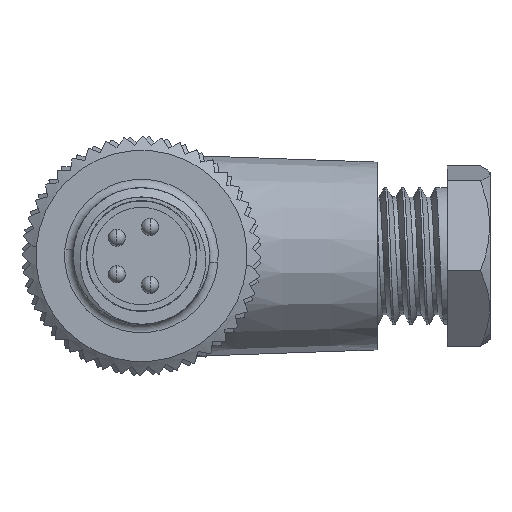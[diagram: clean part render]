
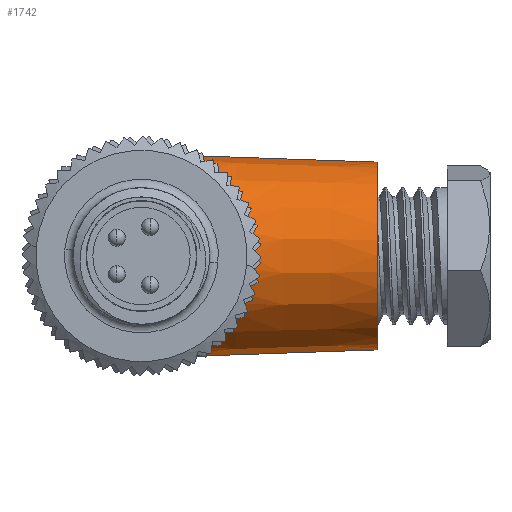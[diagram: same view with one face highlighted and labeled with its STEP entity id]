
A CAD part, front view. The second image highlights one B-rep face of the part: STEP entity #1742.
In plain terms, the highlighted conical face has half-angle 2 degrees and reference radius 5.5 mm.
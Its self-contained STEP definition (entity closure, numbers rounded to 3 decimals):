
#947 = CARTESIAN_POINT ( 'NONE',  ( 7.159, 29.456, 22.231 ) ) ;
#1070 = CARTESIAN_POINT ( 'NONE',  ( 6.057, 30.814, 21.112 ) ) ;
#1196 = CARTESIAN_POINT ( 'NONE',  ( 5.83, 31.121, 31.459 ) ) ;
#1214 = DIRECTION ( 'NONE',  ( 0., 0., 1. ) ) ;
#1331 = CARTESIAN_POINT ( 'NONE',  ( 8.12, 28.368, 23.998 ) ) ;
#1607 = FACE_OUTER_BOUND ( 'NONE', #21605, .T. ) ;
#1742 = ADVANCED_FACE ( 'NONE', ( #1607 ), #22345, .T. ) ;
#2639 = CARTESIAN_POINT ( 'NONE',  ( 4.76, 33.703, 32.085 ) ) ;
#2969 = ORIENTED_EDGE ( 'NONE', *, *, #33414, .F. ) ;
#3855 = CARTESIAN_POINT ( 'NONE',  ( 4.76, 33.703, 20.314 ) ) ;
#3914 = CARTESIAN_POINT ( 'NONE',  ( 7.367, 29.216, 29.884 ) ) ;
#4038 = CARTESIAN_POINT ( 'NONE',  ( 6.733, 29.962, 21.732 ) ) ;
#4173 = CARTESIAN_POINT ( 'NONE',  ( 8.192, 28.288, 28.219 ) ) ;
#5870 = LINE ( 'NONE', #36563, #20614 ) ;
#5948 = B_SPLINE_CURVE_WITH_KNOTS ( 'NONE', 3,
 ( #2639, #23258, #10110, #24656, #15803, #33653, #6776, #12591, #6898, #1196, #30332, #18849, #12714, #33284, #3914, #7146, #27367, #4173, #24529, #9857, #21674, #13092, #15675, #24784, #27738, #27611, #9735, #30703, #12840, #1331, #33164, #18600, #16052, #947, #4038, #18719, #1070, #36583, #33524, #36211, #27489, #30457, #30586, #18980, #18477, #27239, #9610 ),
 .UNSPECIFIED., .F., .F.,
 ( 4, 2, 2, 2, 2, 2, 2, 2, 2, 2, 2, 1, 2, 2, 2, 2, 2, 2, 2, 2, 2, 2, 2, 4 ),
 ( 0.001, 0.002, 0.003, 0.003, 0.004, 0.005, 0.006, 0.008, 0.009, 0.01, 0.011, 0.011, 0.012, 0.013, 0.013, 0.014, 0.015, 0.016, 0.018, 0.019, 0.02, 0.02, 0.021, 0.021 ),
 .UNSPECIFIED. ) ;
#6776 = CARTESIAN_POINT ( 'NONE',  ( 5.205, 32.125, 31.856 ) ) ;
#6898 = CARTESIAN_POINT ( 'NONE',  ( 5.507, 31.609, 31.675 ) ) ;
#7146 = CARTESIAN_POINT ( 'NONE',  ( 7.739, 28.793, 29.274 ) ) ;
#7925 = VERTEX_POINT ( 'NONE', #3855 ) ;
#9610 = CARTESIAN_POINT ( 'NONE',  ( 4.76, 33.703, 20.314 ) ) ;
#9735 = CARTESIAN_POINT ( 'NONE',  ( 8.344, 28.121, 24.765 ) ) ;
#9857 = CARTESIAN_POINT ( 'NONE',  ( 8.421, 28.036, 27.236 ) ) ;
#10110 = CARTESIAN_POINT ( 'NONE',  ( 4.786, 33.284, 32.073 ) ) ;
#10424 = ORIENTED_EDGE ( 'NONE', *, *, #13852, .F. ) ;
#12510 = AXIS2_PLACEMENT_3D ( 'NONE', #12981, #15943, #1214 ) ;
#12591 = CARTESIAN_POINT ( 'NONE',  ( 5.402, 31.776, 31.74 ) ) ;
#12714 = CARTESIAN_POINT ( 'NONE',  ( 6.733, 29.963, 30.668 ) ) ;
#12821 = DIRECTION ( 'NONE',  ( -0.999, 0., 0.035 ) ) ;
#12840 = CARTESIAN_POINT ( 'NONE',  ( 8.185, 28.297, 24.186 ) ) ;
#12981 = CARTESIAN_POINT ( 'NONE',  ( 15.801, 33.703, 26.199 ) ) ;
#13092 = CARTESIAN_POINT ( 'NONE',  ( 8.491, 27.959, 26.615 ) ) ;
#13351 = CARTESIAN_POINT ( 'NONE',  ( 4.76, 33.703, 32.085 ) ) ;
#13852 = EDGE_CURVE ( 'NONE', #31724, #7925, #21586, .T. ) ;
#15521 = ORIENTED_EDGE ( 'NONE', *, *, #16942, .T. ) ;
#15675 = CARTESIAN_POINT ( 'NONE',  ( 8.511, 27.938, 26.201 ) ) ;
#15803 = CARTESIAN_POINT ( 'NONE',  ( 4.95, 32.684, 31.992 ) ) ;
#15943 = DIRECTION ( 'NONE',  ( 1., 0., 0. ) ) ;
#16023 = VERTEX_POINT ( 'NONE', #25335 ) ;
#16052 = CARTESIAN_POINT ( 'NONE',  ( 7.364, 29.221, 22.508 ) ) ;
#16578 = VECTOR ( 'NONE', #32088, 1000. ) ;
#16942 = EDGE_CURVE ( 'NONE', #25537, #7925, #5948, .T. ) ;
#18036 = CARTESIAN_POINT ( 'NONE',  ( 15.801, 33.703, 20.699 ) ) ;
#18477 = CARTESIAN_POINT ( 'NONE',  ( 4.786, 33.287, 20.326 ) ) ;
#18600 = CARTESIAN_POINT ( 'NONE',  ( 7.739, 28.793, 23.125 ) ) ;
#18719 = CARTESIAN_POINT ( 'NONE',  ( 6.511, 30.233, 21.509 ) ) ;
#18849 = CARTESIAN_POINT ( 'NONE',  ( 6.51, 30.234, 30.891 ) ) ;
#18959 = DIRECTION ( 'NONE',  ( -1., 0., 0. ) ) ;
#18980 = CARTESIAN_POINT ( 'NONE',  ( 4.882, 32.878, 20.373 ) ) ;
#18987 = AXIS2_PLACEMENT_3D ( 'NONE', #31336, #18959, #25027 ) ;
#20614 = VECTOR ( 'NONE', #12821, 1000. ) ;
#21586 = LINE ( 'NONE', #26534, #16578 ) ;
#21605 = EDGE_LOOP ( 'NONE', ( #10424, #2969, #32357, #15521 ) ) ;
#21674 = CARTESIAN_POINT ( 'NONE',  ( 8.451, 28.003, 27.029 ) ) ;
#22345 = CONICAL_SURFACE ( 'NONE', #18987, 5.5, 0.035 ) ;
#23258 = CARTESIAN_POINT ( 'NONE',  ( 4.76, 33.495, 32.085 ) ) ;
#24529 = CARTESIAN_POINT ( 'NONE',  ( 8.304, 28.164, 27.837 ) ) ;
#24656 = CARTESIAN_POINT ( 'NONE',  ( 4.882, 32.879, 32.026 ) ) ;
#24784 = CARTESIAN_POINT ( 'NONE',  ( 8.491, 27.959, 25.787 ) ) ;
#25027 = DIRECTION ( 'NONE',  ( 0., 0., 1. ) ) ;
#25335 = CARTESIAN_POINT ( 'NONE',  ( 15.801, 33.703, 31.699 ) ) ;
#25537 = VERTEX_POINT ( 'NONE', #13351 ) ;
#26534 = CARTESIAN_POINT ( 'NONE',  ( 15.801, 33.703, 20.699 ) ) ;
#27239 = CARTESIAN_POINT ( 'NONE',  ( 4.76, 33.494, 20.314 ) ) ;
#27367 = CARTESIAN_POINT ( 'NONE',  ( 7.906, 28.606, 28.943 ) ) ;
#27489 = CARTESIAN_POINT ( 'NONE',  ( 5.205, 32.124, 20.543 ) ) ;
#27611 = CARTESIAN_POINT ( 'NONE',  ( 8.421, 28.036, 25.165 ) ) ;
#27738 = CARTESIAN_POINT ( 'NONE',  ( 8.451, 28.003, 25.371 ) ) ;
#30332 = CARTESIAN_POINT ( 'NONE',  ( 6.059, 30.813, 31.286 ) ) ;
#30457 = CARTESIAN_POINT ( 'NONE',  ( 5.112, 32.307, 20.491 ) ) ;
#30567 = EDGE_CURVE ( 'NONE', #16023, #25537, #5870, .T. ) ;
#30586 = CARTESIAN_POINT ( 'NONE',  ( 4.95, 32.684, 20.406 ) ) ;
#30703 = CARTESIAN_POINT ( 'NONE',  ( 8.296, 28.173, 24.569 ) ) ;
#31336 = CARTESIAN_POINT ( 'NONE',  ( 15.801, 33.703, 26.199 ) ) ;
#31724 = VERTEX_POINT ( 'NONE', #18036 ) ;
#32088 = DIRECTION ( 'NONE',  ( -0.999, 0., -0.035 ) ) ;
#32357 = ORIENTED_EDGE ( 'NONE', *, *, #30567, .T. ) ;
#32511 = CIRCLE ( 'NONE', #12510, 5.5 ) ;
#33164 = CARTESIAN_POINT ( 'NONE',  ( 7.907, 28.605, 23.457 ) ) ;
#33284 = CARTESIAN_POINT ( 'NONE',  ( 7.161, 29.454, 30.166 ) ) ;
#33414 = EDGE_CURVE ( 'NONE', #16023, #31724, #32511, .T. ) ;
#33524 = CARTESIAN_POINT ( 'NONE',  ( 5.507, 31.607, 20.725 ) ) ;
#33653 = CARTESIAN_POINT ( 'NONE',  ( 5.111, 32.307, 31.908 ) ) ;
#36211 = CARTESIAN_POINT ( 'NONE',  ( 5.403, 31.775, 20.659 ) ) ;
#36563 = CARTESIAN_POINT ( 'NONE',  ( 15.801, 33.703, 31.699 ) ) ;
#36583 = CARTESIAN_POINT ( 'NONE',  ( 5.83, 31.12, 20.941 ) ) ;
